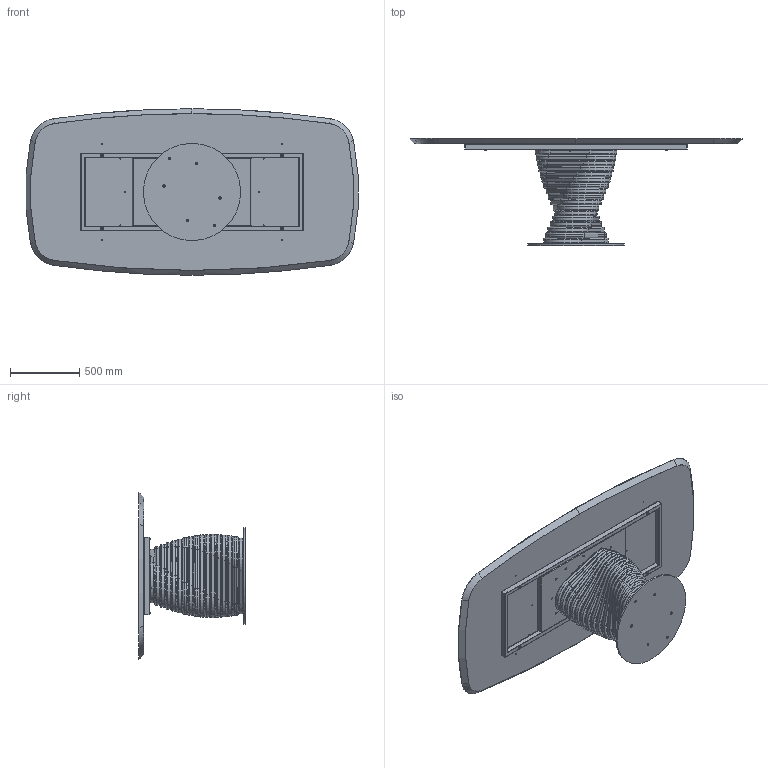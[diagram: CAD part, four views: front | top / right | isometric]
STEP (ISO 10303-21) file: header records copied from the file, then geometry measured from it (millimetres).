
FILE_DESCRIPTION (( 'STEP AP203' ), '1' );
FILE_NAME ('RO43W.STEP', '2024-08-07T13:38:05', ( '' ), ( '' ), 'SwSTEP 2.0', 'SolidWorks 2022', '' );
FILE_SCHEMA (( 'CONFIG_CONTROL_DESIGN' ));
Length unit declared in the file: millimetre
Products named in the file (15): M8xXXmm_M8x55mm; TTAV01_01-05-TELAIO UNIVERSALE X TAVOLI 180 240cm; M8xXXmm_hex_M8X20mm; rondella M8_8X24; TTAV01-05-TELAIO UNIVERSALE X TAVOLI 180 240cm; ROBX00000INF-00-Anello rotolo INFERIORE_Default<A macchina>; ROBX00000MED-00-Anello rotolo MEDIO_Default<A macchina>; ROB200000-00-PIASTRA BASE_Ø70cm; ROBX00000SUP-00-Anello rotolo SUPERIORE_Default<A macchina>; RO43W; ROBX00000-00-ROTOLO BASE 17 ANELLI; TTAV01_02-05-VASSOIO IRRIGIDIMENTO TELAIO UNIVERSALE; COLLO TELAIO UNIVERSALE TTAV01 CON FERRAMENTA_MTG TOP LEGNO-MARMO-KING; M8xXXmm_M8x20mm; W4XCMXX-00-Piani Sagomati legno_2400 x 1200
Assembly tree (46 placements, depth 4):
  RO43W
    ROB200000-00-PIASTRA BASE_Ø70cm
    ROBX00000-00-ROTOLO BASE 17 ANELLI
      ROBX00000INF-00-Anello rotolo INFERIORE_Default<A macchina>
      ROBX00000MED-00-Anello rotolo MEDIO_Default<A macchina>  x15
      ROBX00000SUP-00-Anello rotolo SUPERIORE_Default<A macchina>
    M8xXXmm_hex_M8X20mm  x6
    COLLO TELAIO UNIVERSALE TTAV01 CON FERRAMENTA_MTG TOP LEGNO-MARMO-KING
      TTAV01-05-TELAIO UNIVERSALE X TAVOLI 180 240cm
        TTAV01_02-05-VASSOIO IRRIGIDIMENTO TELAIO UNIVERSALE
        TTAV01_01-05-TELAIO UNIVERSALE X TAVOLI 180 240cm
      rondella M8_8X24  x4
      M8xXXmm_M8x55mm  x4
    rondella M8_8X24  x4
    M8xXXmm_M8x20mm  x4
    W4XCMXX-00-Piani Sagomati legno_2400 x 1200
Bounding box: 2391.9 x 770 x 1200 mm (x, y, z)
Volume: 110132762.9 mm3; surface area: 13277043.9 mm2
Topology: 94 solids, 94 shells, 1691 faces, 4018 edges, 2470 vertices
Faces by surface type: plane 654, cylinder 593, torus 253, cone 183, sphere 8
Entity records: 23467 total; most frequent: CARTESIAN_POINT 5202, DIRECTION 3470, ORIENTED_EDGE 3156, EDGE_CURVE 1578, AXIS2_PLACEMENT_3D 1321, VERTEX_POINT 991, VECTOR 828, LINE 828
